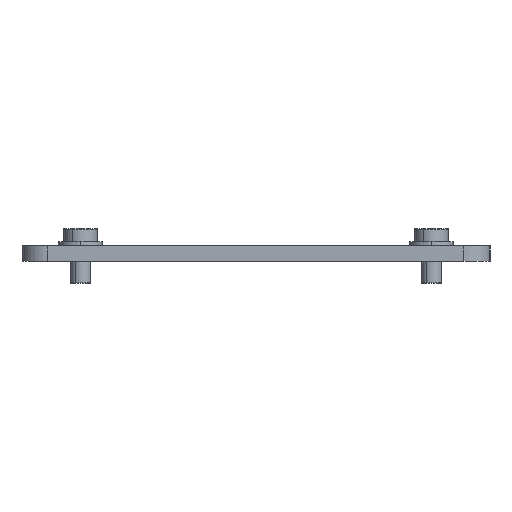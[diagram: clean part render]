
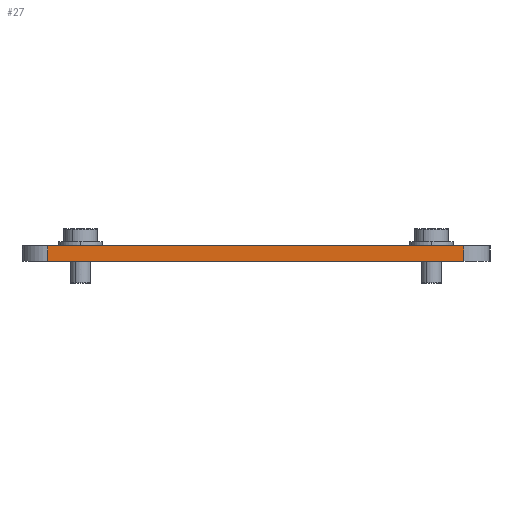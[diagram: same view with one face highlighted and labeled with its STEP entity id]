
A CAD part, left-side view. The second image highlights one B-rep face of the part: STEP entity #27.
In plain terms, the highlighted planar face has unit normal (-1, 0, 0).
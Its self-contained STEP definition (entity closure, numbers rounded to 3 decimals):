
#27 = ADVANCED_FACE ( 'NONE', ( #952 ), #621, .F. ) ;
#441 = DIRECTION ( 'NONE',  ( 0., 0., -1. ) ) ;
#442 = DIRECTION ( 'NONE',  ( 0., -1., 0. ) ) ;
#445 = CARTESIAN_POINT ( 'NONE',  ( -247.5, 90., 3. ) ) ;
#446 = DIRECTION ( 'NONE',  ( 0., 0., 1. ) ) ;
#450 = DIRECTION ( 'NONE',  ( 0., -1., 0. ) ) ;
#451 = CARTESIAN_POINT ( 'NONE',  ( -247.5, 80., 3. ) ) ;
#457 = CARTESIAN_POINT ( 'NONE',  ( -247.5, 90., -3. ) ) ;
#458 = CARTESIAN_POINT ( 'NONE',  ( -247.5, -80., 3. ) ) ;
#544 = CARTESIAN_POINT ( 'NONE',  ( -247.5, -80., 3. ) ) ;
#554 = CARTESIAN_POINT ( 'NONE',  ( -247.5, 80., 3. ) ) ;
#559 = CARTESIAN_POINT ( 'NONE',  ( -247.5, -80., -3. ) ) ;
#562 = CARTESIAN_POINT ( 'NONE',  ( -247.5, 80., -3. ) ) ;
#601 = CARTESIAN_POINT ( 'NONE',  ( -247.5, 90., 3. ) ) ;
#603 = DIRECTION ( 'NONE',  ( 1., 0., 0. ) ) ;
#621 = PLANE ( 'NONE',  #1575 ) ;
#634 = DIRECTION ( 'NONE',  ( 0., 1., 0. ) ) ;
#752 = VECTOR ( 'NONE', #441, 1000. ) ;
#754 = VECTOR ( 'NONE', #442, 1000. ) ;
#756 = VECTOR ( 'NONE', #446, 1000. ) ;
#757 = LINE ( 'NONE', #445, #754 ) ;
#758 = VECTOR ( 'NONE', #450, 1000. ) ;
#759 = LINE ( 'NONE', #451, #752 ) ;
#762 = LINE ( 'NONE', #458, #756 ) ;
#767 = LINE ( 'NONE', #457, #758 ) ;
#952 = FACE_OUTER_BOUND ( 'NONE', #1137, .T. ) ;
#1084 = VERTEX_POINT ( 'NONE', #562 ) ;
#1085 = VERTEX_POINT ( 'NONE', #559 ) ;
#1089 = VERTEX_POINT ( 'NONE', #554 ) ;
#1090 = VERTEX_POINT ( 'NONE', #544 ) ;
#1097 = ORIENTED_EDGE ( 'NONE', *, *, #1643, .T. ) ;
#1137 = EDGE_LOOP ( 'NONE', ( #1267, #1275, #1286, #1097 ) ) ;
#1267 = ORIENTED_EDGE ( 'NONE', *, *, #1639, .T. ) ;
#1275 = ORIENTED_EDGE ( 'NONE', *, *, #1640, .T. ) ;
#1286 = ORIENTED_EDGE ( 'NONE', *, *, #1642, .F. ) ;
#1575 = AXIS2_PLACEMENT_3D ( 'NONE', #601, #603, #634 ) ;
#1639 = EDGE_CURVE ( 'NONE', #1084, #1085, #767, .T. ) ;
#1640 = EDGE_CURVE ( 'NONE', #1085, #1090, #762, .T. ) ;
#1642 = EDGE_CURVE ( 'NONE', #1089, #1090, #757, .T. ) ;
#1643 = EDGE_CURVE ( 'NONE', #1089, #1084, #759, .T. ) ;
